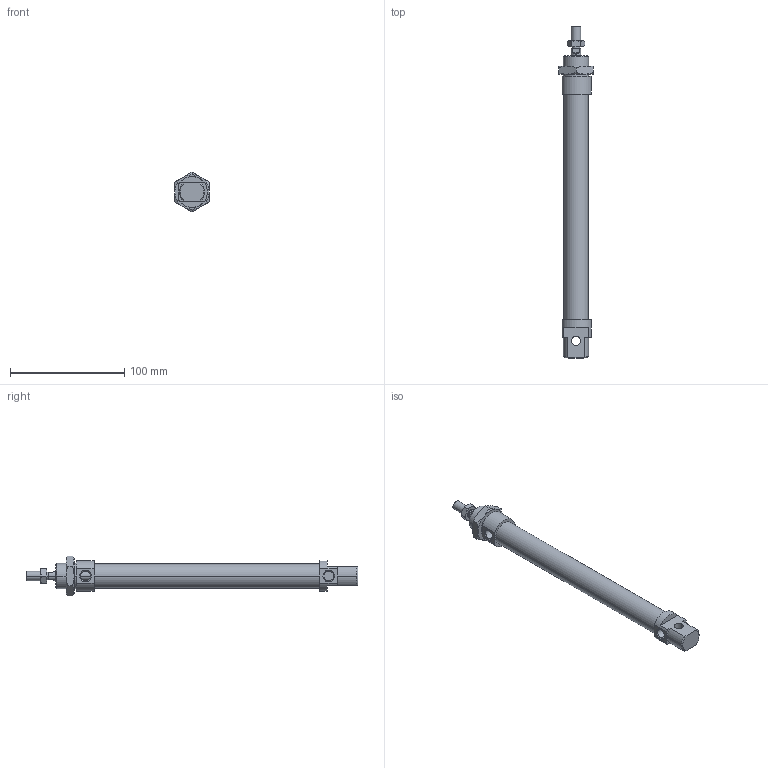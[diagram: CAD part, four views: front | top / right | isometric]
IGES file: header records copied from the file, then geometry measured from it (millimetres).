
Global section: file name: No Iges File Name specified; native system: AutoDesk Inventor R6.0; preprocessor: AutoDesk Inventor Iges Exporter R6.0; author: No Author specified; organization: No Organization specified; date: 20030407.191356; units: millimetre
Bounding box: 30 x 290 x 34.64 mm (x, y, z)
Volume: 100835 mm3; surface area: 33230.2 mm2
Topology: 4 solids, 4 shells, 124 faces, 281 edges, 170 vertices
Faces by surface type: plane 41, cone 38, bspline 21, cylinder 18, revolution 6
